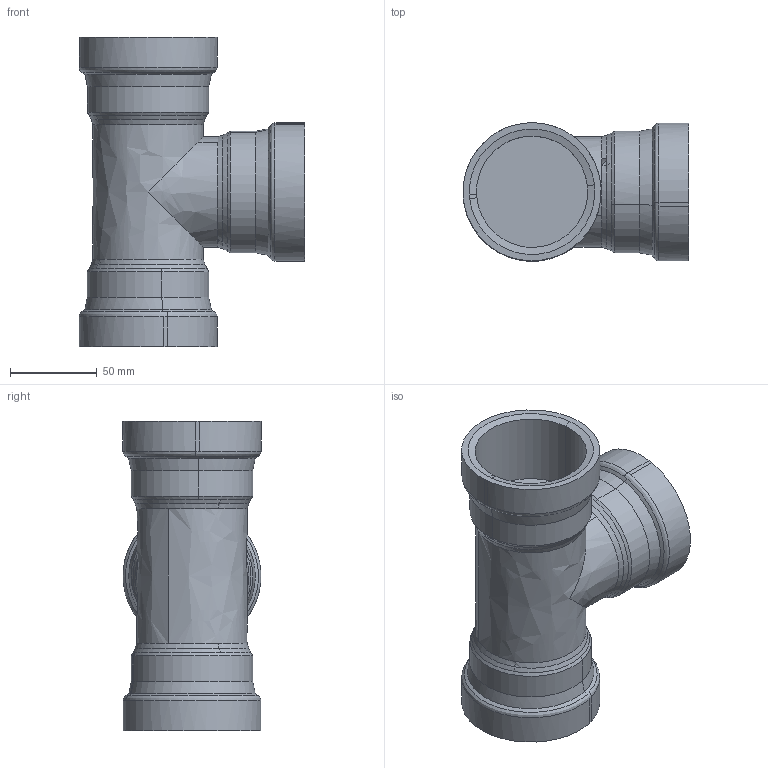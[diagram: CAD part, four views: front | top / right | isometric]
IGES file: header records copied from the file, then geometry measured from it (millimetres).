
Start section: 3D InterOp IGES (Version 25 0 1), Spatial Corp. Copyright (c) 1999-2007.
Global section: file name: pim0001198.igs; native system: Spatial Corp.; preprocessor: 3D InterOp ACIS/IGES; author: CAD-PIM; organization: TransMagic, Inc.; date: 20150316.171214; units: millimetre
Bounding box: 130.03 x 79.49 x 178 mm (x, y, z)
Volume: 513493 mm3; surface area: 92123.8 mm2
Topology: 1 solids, 1 shells, 88 faces, 209 edges, 124 vertices
Faces by surface type: bspline 88
